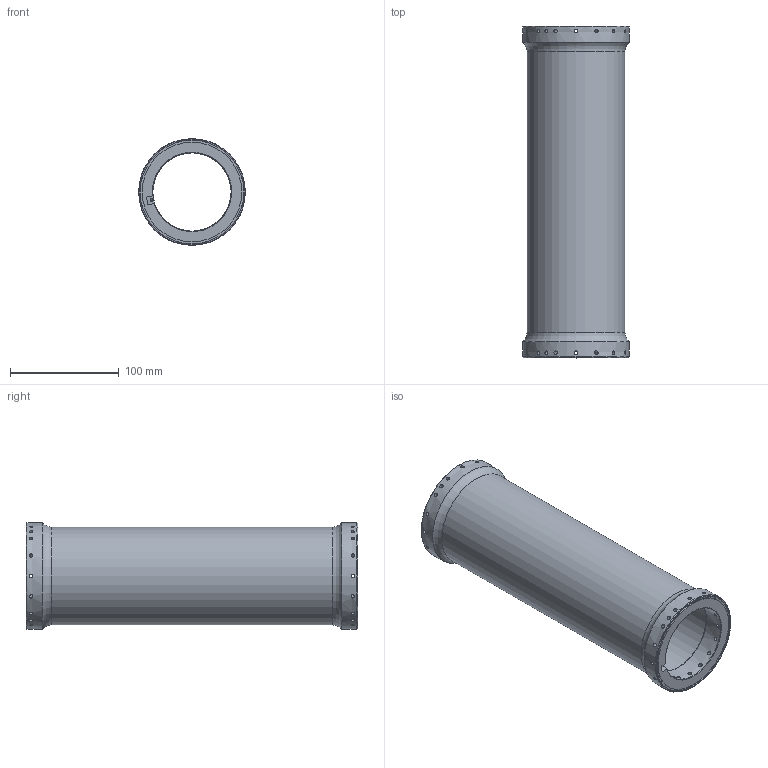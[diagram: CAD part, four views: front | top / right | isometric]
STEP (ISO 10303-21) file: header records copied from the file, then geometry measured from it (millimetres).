
FILE_DESCRIPTION (( 'STEP AP214' ), '1' );
FILE_NAME ('2-091-002 5kg媼壽誹蟀裝.STEP', '2026-05-21T03:50:03', ( 'Windows User' ), ( 'P R C' ), 'SwSTEP 2.0', 'SolidWorks 2021', '' );
FILE_SCHEMA (( 'AUTOMOTIVE_DESIGN' ));
Length unit declared in the file: millimetre
Products named in the file (1): 2-091-002 5kg媼壽誹蟀裝
Bounding box: 98 x 305 x 98 mm (x, y, z)
Volume: 546264.3 mm3; surface area: 175417.6 mm2
Topology: 1 solids, 1 shells, 80 faces, 213 edges, 138 vertices
Faces by surface type: cylinder 52, plane 16, torus 8, cone 4
Full cylindrical faces by diameter (mm): 2.5 x2, 3.3 x36, 72 x2, 78 x1, 90 x1, 91.7 x2, 95.5 x2, 98 x2
Entity records: 6208 total; most frequent: CARTESIAN_POINT 4043, ORIENTED_EDGE 284, DIRECTION 270, EDGE_LOOP 218, EDGE_CURVE 142, FACE_OUTER_BOUND 134, VERTEX_POINT 128, AXIS2_PLACEMENT_3D 123
